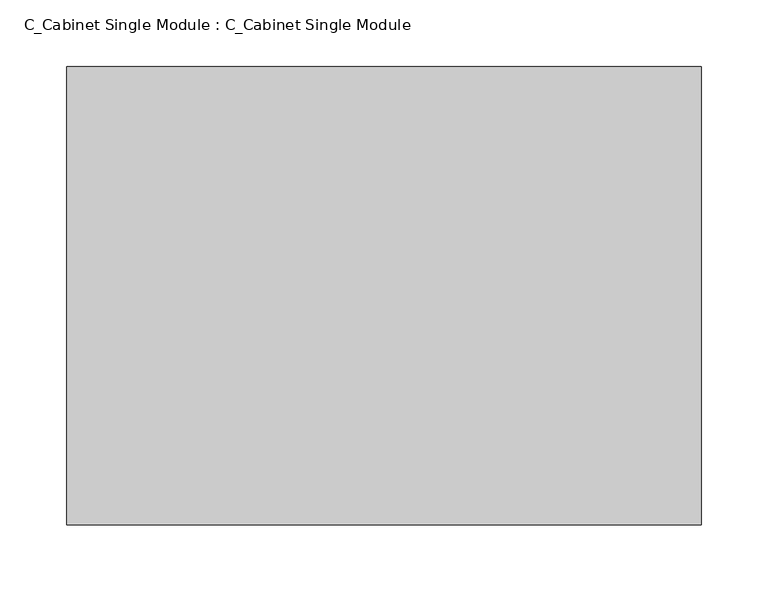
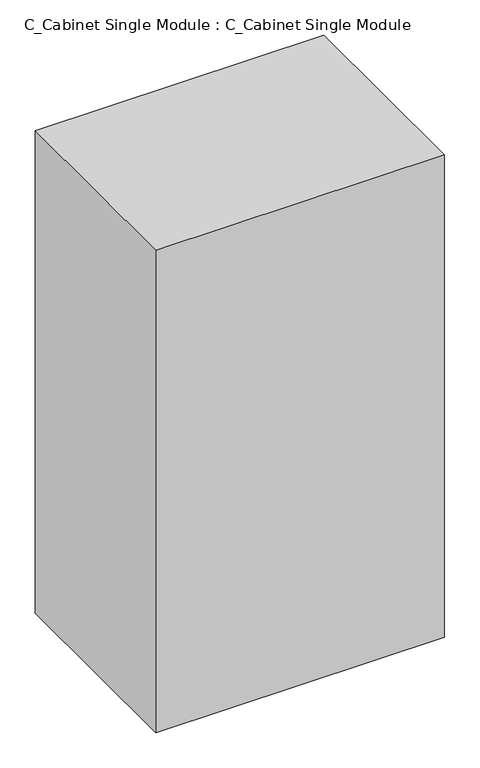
"""IFC4 building model written with IfcOpenShell, lengths in millimetres: furniture geometry, C_Cabinet Single Module : C_Cabinet Single Module."""

from ifc_helpers import new_model, si_unit, origin, origin_with_axes, place, context, project, spatial, polyline, outline, extrude, source, transform, mapped, element, save


def c_cabinet_single_module_c_cabinet_single_module_e00544f8(model_context):
    return source(origin(), model_context, "Body", "SweptSolid", [
        extrude(outline(polyline([(237.33125, 0.0), (237.33125, -342.9), (-237.33125, -342.9), (-237.33125, 0.0), (237.33125, 0.0)])), origin_with_axes(), (0.0, 0.0, 1.0), 838.2),
    ])


if __name__ == "__main__":
    model = new_model("IFC4")
    model_context = context("Model", 3, world=origin())
    ifc_project = project(units=[si_unit("LENGTHUNIT", "METRE", prefix="MILLI")], contexts=[model_context])
    site = spatial("IfcSite", under=ifc_project)
    building = spatial("IfcBuilding", under=site)
    placement = place(None, origin())
    c_cabinet_single_module_c_cabinet_single_module_shape = c_cabinet_single_module_c_cabinet_single_module_e00544f8(model_context)
    element("IfcFurniture", 1, ObjectType="C_Cabinet Single Module : C_Cabinet Single Module", at=placement, inside=building, context=model_context, shape_type="MappedRepresentation", body=[
        mapped(c_cabinet_single_module_c_cabinet_single_module_shape, transform((0.0, 0.0, 0.0), x_axis=(1.0, 0.0, 0.0), y_axis=(0.0, 1.0, 0.0), z_axis=(0.0, 0.0, 1.0))),
    ])
    save(model, "model.ifc")
